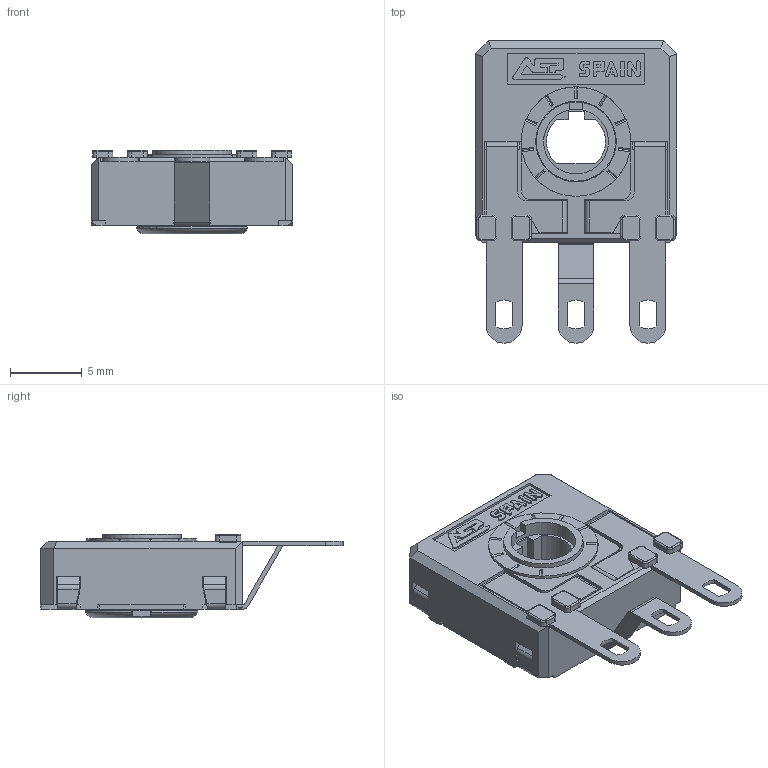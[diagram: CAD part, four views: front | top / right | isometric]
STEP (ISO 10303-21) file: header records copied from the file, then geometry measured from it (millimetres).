
FILE_DESCRIPTION(/* description */ (''),/* implementation_level */ '2;1');
FILE_NAME(/* name */ '\\SERVERACP\intercambio\Ignacio Santa Cecilia\Nueva WEB 2025\CA14 - CE14\CA14THC0.stp',/* time_stamp */ '2025-06-13T11:23:58+02:00',/* author */ ('CEM'),/* organization */ (''),/* preprocessor_version */ 'ST-DEVELOPER v17',/* originating_system */ 'Autodesk Inventor 2018',/* authorisation */ '');
FILE_SCHEMA (('AUTOMOTIVE_DESIGN { 1 0 10303 214 3 1 1 }'));
Length unit declared in the file: millimetre
Products named in the file (1): CARCASA CA14 PGA
Bounding box: 14 x 21 x 5.8 mm (x, y, z)
Volume: 533 mm3; surface area: 1492.9 mm2
Topology: 1 solids, 1 shells, 661 faces, 1867 edges, 1202 vertices
Faces by surface type: plane 480, cylinder 144, torus 23, bspline 8, cone 6
Full cylindrical faces by diameter (mm): 4.5 x1, 5.5 x1, 5.6 x1, 5.752 x1, 6.8 x1, 7.6 x1
Entity records: 21617 total; most frequent: CARTESIAN_POINT 4028, ORIENTED_EDGE 3734, DIRECTION 3504, EDGE_CURVE 1867, LINE 1448, VECTOR 1448, VERTEX_POINT 1202, AXIS2_PLACEMENT_3D 1028
